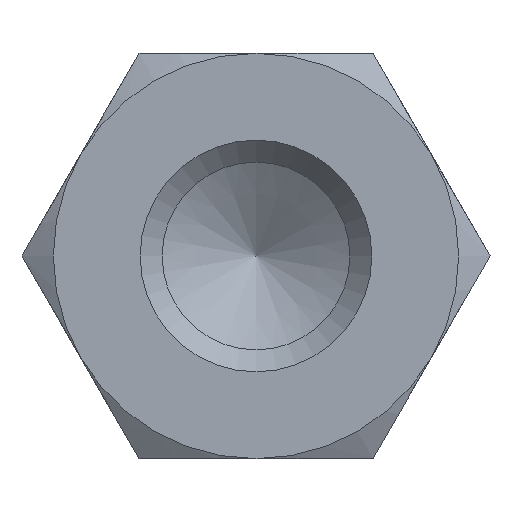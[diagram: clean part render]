
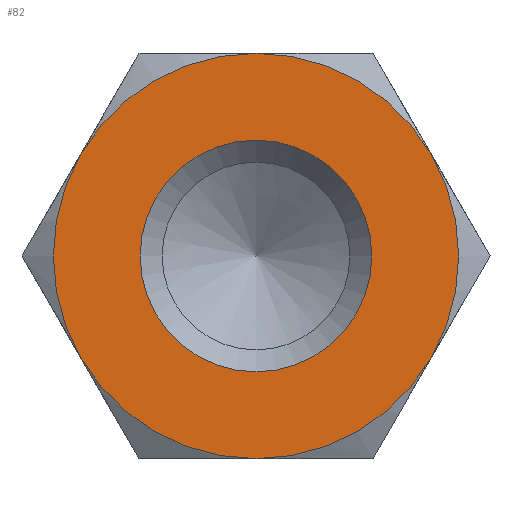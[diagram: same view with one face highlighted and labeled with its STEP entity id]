
A CAD part, left-side view. The second image highlights one B-rep face of the part: STEP entity #82.
In plain terms, the highlighted planar face has unit normal (-1, 0, 0).
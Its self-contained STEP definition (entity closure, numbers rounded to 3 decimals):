
#82 = ADVANCED_FACE( '', ( #119, #120 ), #121, .F. );
#119 = FACE_OUTER_BOUND( '', #179, .T. );
#120 = FACE_BOUND( '', #180, .T. );
#121 = PLANE( '', #181 );
#179 = EDGE_LOOP( '', ( #264, #265, #266, #267, #268, #269 ) );
#180 = EDGE_LOOP( '', ( #270 ) );
#181 = AXIS2_PLACEMENT_3D( '', #271, #272, #273 );
#264 = ORIENTED_EDGE( '', *, *, #416, .F. );
#265 = ORIENTED_EDGE( '', *, *, #417, .F. );
#266 = ORIENTED_EDGE( '', *, *, #418, .F. );
#267 = ORIENTED_EDGE( '', *, *, #409, .F. );
#268 = ORIENTED_EDGE( '', *, *, #405, .F. );
#269 = ORIENTED_EDGE( '', *, *, #406, .F. );
#270 = ORIENTED_EDGE( '', *, *, #419, .T. );
#271 = CARTESIAN_POINT( '', ( 0., 0., 0. ) );
#272 = DIRECTION( '', ( 1., 0., 0. ) );
#273 = DIRECTION( '', ( 0., 0., -1. ) );
#405 = EDGE_CURVE( '', #457, #454, #459, .T. );
#406 = EDGE_CURVE( '', #460, #457, #461, .T. );
#409 = EDGE_CURVE( '', #454, #465, #466, .T. );
#416 = EDGE_CURVE( '', #477, #460, #478, .T. );
#417 = EDGE_CURVE( '', #479, #477, #480, .T. );
#418 = EDGE_CURVE( '', #465, #479, #481, .T. );
#419 = EDGE_CURVE( '', #482, #482, #483, .T. );
#454 = VERTEX_POINT( '', #532 );
#457 = VERTEX_POINT( '', #540 );
#459 = CIRCLE( '', #547, 3.5 );
#460 = VERTEX_POINT( '', #548 );
#461 = CIRCLE( '', #549, 3.5 );
#465 = VERTEX_POINT( '', #561 );
#466 = CIRCLE( '', #562, 3.5 );
#477 = VERTEX_POINT( '', #593 );
#478 = CIRCLE( '', #594, 3.5 );
#479 = VERTEX_POINT( '', #595 );
#480 = CIRCLE( '', #596, 3.5 );
#481 = CIRCLE( '', #597, 3.5 );
#482 = VERTEX_POINT( '', #598 );
#483 = CIRCLE( '', #599, 2. );
#532 = CARTESIAN_POINT( '', ( 0., -3.031, 1.75 ) );
#540 = CARTESIAN_POINT( '', ( 0., 0., 3.5 ) );
#547 = AXIS2_PLACEMENT_3D( '', #723, #724, #725 );
#548 = CARTESIAN_POINT( '', ( 0., 3.031, 1.75 ) );
#549 = AXIS2_PLACEMENT_3D( '', #726, #727, #728 );
#561 = CARTESIAN_POINT( '', ( 0., -3.031, -1.75 ) );
#562 = AXIS2_PLACEMENT_3D( '', #729, #730, #731 );
#593 = CARTESIAN_POINT( '', ( 0., 3.031, -1.75 ) );
#594 = AXIS2_PLACEMENT_3D( '', #734, #735, #736 );
#595 = CARTESIAN_POINT( '', ( 0., 0., -3.5 ) );
#596 = AXIS2_PLACEMENT_3D( '', #737, #738, #739 );
#597 = AXIS2_PLACEMENT_3D( '', #740, #741, #742 );
#598 = CARTESIAN_POINT( '', ( 0., 0., -2. ) );
#599 = AXIS2_PLACEMENT_3D( '', #743, #744, #745 );
#723 = CARTESIAN_POINT( '', ( 0., 0., 0. ) );
#724 = DIRECTION( '', ( 1., 0., 0. ) );
#725 = DIRECTION( '', ( 0., 0., -1. ) );
#726 = CARTESIAN_POINT( '', ( 0., 0., 0. ) );
#727 = DIRECTION( '', ( 1., 0., 0. ) );
#728 = DIRECTION( '', ( 0., 0., -1. ) );
#729 = CARTESIAN_POINT( '', ( 0., 0., 0. ) );
#730 = DIRECTION( '', ( 1., 0., 0. ) );
#731 = DIRECTION( '', ( 0., 0., -1. ) );
#734 = CARTESIAN_POINT( '', ( 0., 0., 0. ) );
#735 = DIRECTION( '', ( 1., 0., 0. ) );
#736 = DIRECTION( '', ( 0., 0., -1. ) );
#737 = CARTESIAN_POINT( '', ( 0., 0., 0. ) );
#738 = DIRECTION( '', ( 1., 0., 0. ) );
#739 = DIRECTION( '', ( 0., 0., -1. ) );
#740 = CARTESIAN_POINT( '', ( 0., 0., 0. ) );
#741 = DIRECTION( '', ( 1., 0., 0. ) );
#742 = DIRECTION( '', ( 0., 0., -1. ) );
#743 = CARTESIAN_POINT( '', ( 0., 0., 0. ) );
#744 = DIRECTION( '', ( 1., 0., 0. ) );
#745 = DIRECTION( '', ( 0., 0., -1. ) );
